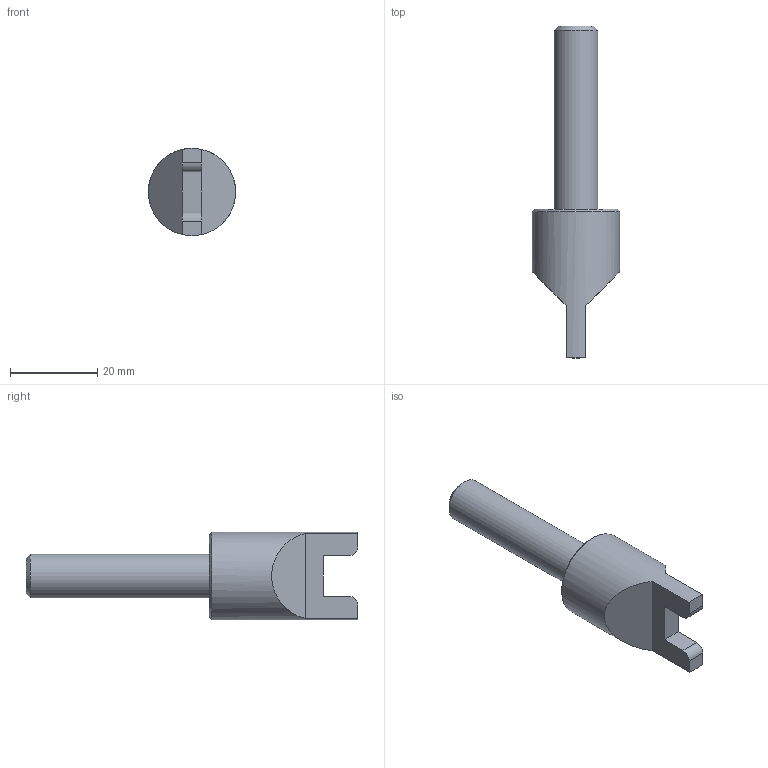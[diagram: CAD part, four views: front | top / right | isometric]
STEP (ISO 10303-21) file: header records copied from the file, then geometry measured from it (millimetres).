
FILE_DESCRIPTION(/* description */ (''),/* implementation_level */ '2;1');
FILE_NAME(/* name */ 'SYSTEM_SUPPORT_27.stp',/* time_stamp */ '2018-09-20T14:29:23+02:00',/* author */ (''),/* organization */ (''),/* preprocessor_version */ 'ST-DEVELOPER v16.7',/* originating_system */ 'SIEMENS PLM Software NX 12.0',/* authorisation */ '');
FILE_SCHEMA (('AUTOMOTIVE_DESIGN { 1 0 10303 214 3 1 1 1 }'));
Length unit declared in the file: millimetre
Products named in the file (1): bez9B988210ct94
Bounding box: 20 x 76 x 20 mm (x, y, z)
Volume: 10188.8 mm3; surface area: 3604.7 mm2
Topology: 1 solids, 1 shells, 17 faces, 40 edges, 26 vertices
Faces by surface type: plane 11, cylinder 4, cone 2
Full cylindrical faces by diameter (mm): 10 x1, 20 x1
Entity records: 494 total; most frequent: DIRECTION 84, CARTESIAN_POINT 78, ORIENTED_EDGE 70, EDGE_CURVE 35, AXIS2_PLACEMENT_3D 31, VERTEX_POINT 25, EDGE_LOOP 22, LINE 22
